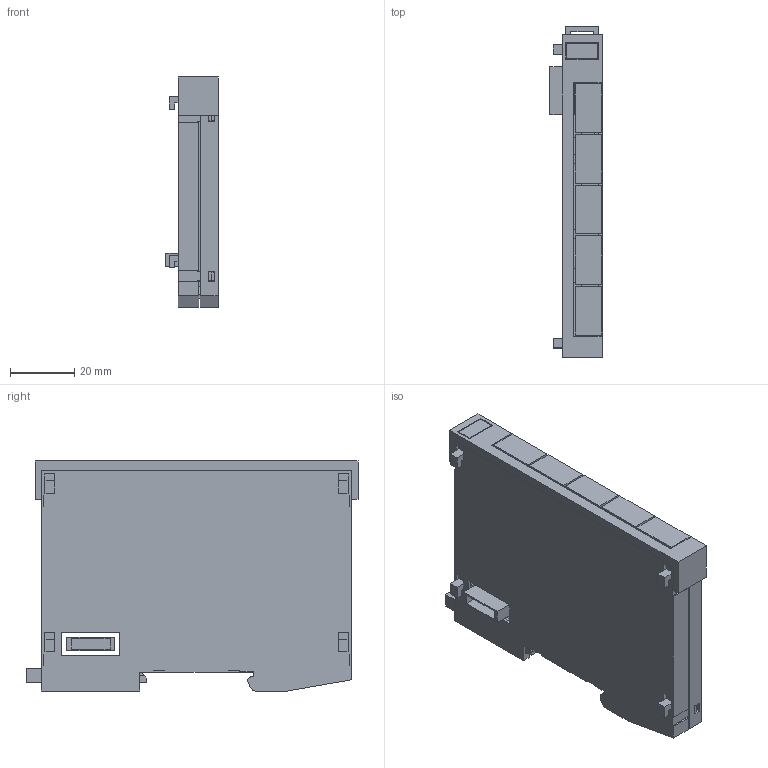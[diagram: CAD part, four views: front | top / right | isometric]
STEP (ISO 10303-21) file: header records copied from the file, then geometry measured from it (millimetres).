
FILE_DESCRIPTION (( 'STEP AP214' ), '1' );
FILE_NAME ('AP001 support Export20250312.STEP', '2025-03-12T14:32:38', ( '' ), ( '' ), 'SwSTEP 2.0', 'SolidWorks 2020', '' );
FILE_SCHEMA (( 'AUTOMOTIVE_DESIGN' ));
Length unit declared in the file: millimetre
Products named in the file (9): Schieber_f Suport; S-Dias Schale links_f Suport; 4110251342_MF 10-5 MC CABUR_1854510000; S-Dias Schale rechts_f Suport; Dummy_4080225346 Erni Stift; Steckerabdeckung_Var 9_Support; LP_AP001; Rasthaken S-Dias f Support; AP001 support Export20250312
Assembly tree (13 placements, depth 3):
  AP001 support Export20250312
    4110251342_MF 10-5 MC CABUR_1854510000
    S-Dias Schale links_f Suport
    S-Dias Schale rechts_f Suport
    Schieber_f Suport
    Rasthaken S-Dias f Support
    LP_AP001
      Dummy_4080225346 Erni Stift  x2
    Steckerabdeckung_Var 9_Support  x5
Bounding box: 16.3 x 103.62 x 71.79 mm (x, y, z)
Volume: 22177.9 mm3; surface area: 39994.6 mm2
Topology: 13 solids, 13 shells, 549 faces, 1522 edges, 998 vertices
Faces by surface type: plane 505, cylinder 24, cone 16, torus 4
Entity records: 16548 total; most frequent: CARTESIAN_POINT 2799, ORIENTED_EDGE 2740, DIRECTION 2464, EDGE_CURVE 1370, LINE 1274, VECTOR 1274, VERTEX_POINT 898, AXIS2_PLACEMENT_3D 595
